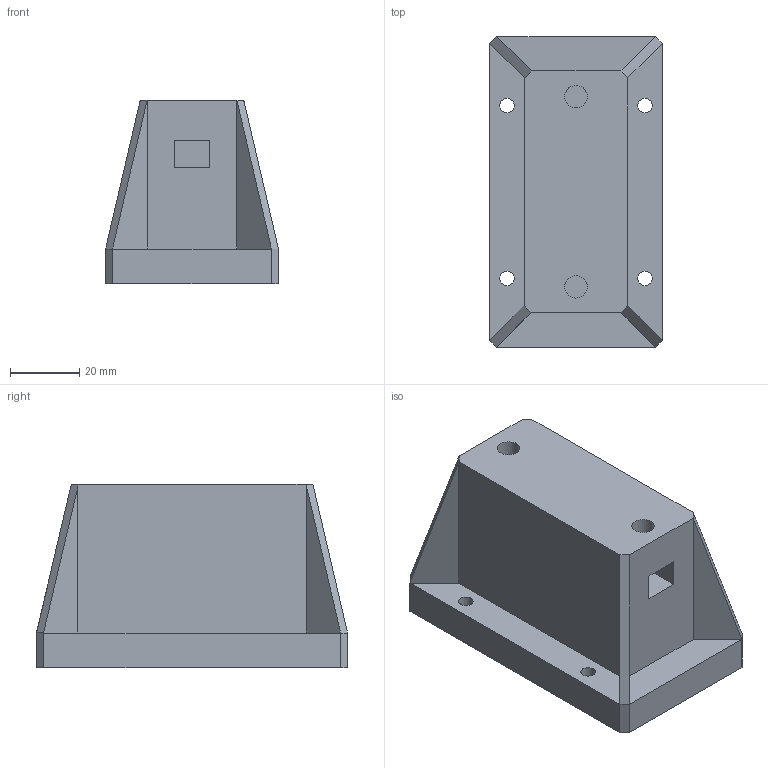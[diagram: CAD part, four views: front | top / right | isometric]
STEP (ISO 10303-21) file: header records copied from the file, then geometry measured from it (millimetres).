
FILE_DESCRIPTION(('HOOPS Exchange Step'),'2;1');
FILE_NAME('C:\Users\lindbee1\AppData\Local\Packages\Shapr3D.Shapr3D_j403pzjkqtqbj\TempState\export\temp_export','2023-09-07T14:28:49+03:00',('lindbee1'),('Shapr3D Limited'),'HOOPS Exchange 2023.2','Shapr3D','Authorized');
FILE_SCHEMA( ('AUTOMOTIVE_DESIGN { 1 0 10303 214 1 1 1 1 }') );
Length unit declared in the file: millimetre
Products named in the file (1): root
Bounding box: 50 x 90 x 53 mm (x, y, z)
Volume: 134511.3 mm3; surface area: 24270.6 mm2
Topology: 1 solids, 1 shells, 49 faces, 121 edges, 75 vertices
Faces by surface type: plane 43, cylinder 6
Full cylindrical faces by diameter (mm): 4.2 x4, 6.5 x2
Entity records: 1460 total; most frequent: CARTESIAN_POINT 246, ORIENTED_EDGE 242, DIRECTION 234, EDGE_CURVE 121, VECTOR 108, LINE 108, VERTEX_POINT 75, AXIS2_PLACEMENT_3D 63
